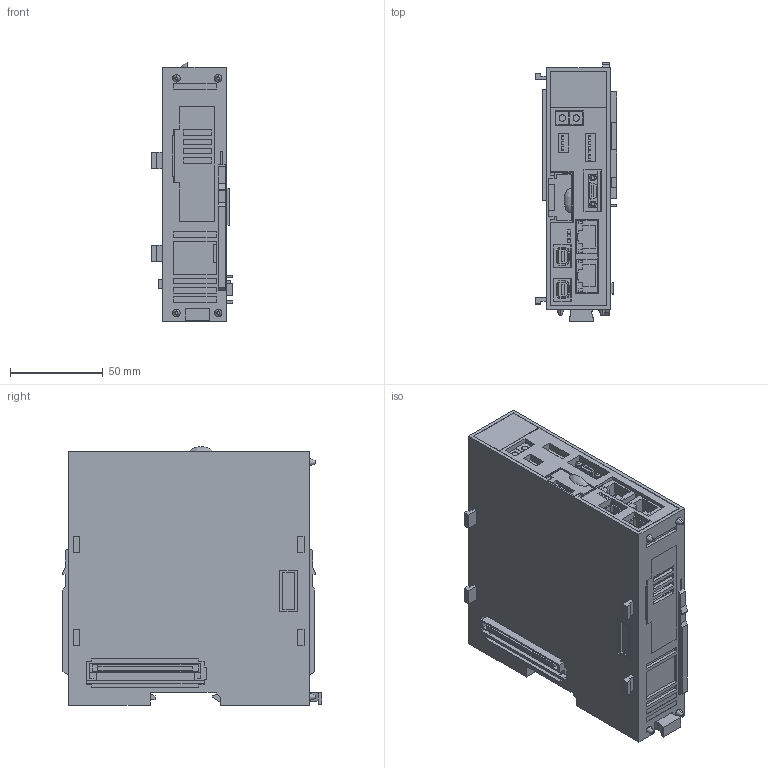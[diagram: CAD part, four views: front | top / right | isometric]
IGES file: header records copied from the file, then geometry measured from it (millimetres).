
Start section: SolidWorks IGES file using analytic representation for surfaces
Global section: file name: D:\YASKAWA\jepmc_cp3201_e.IGS; native system: SolidWorks 2006 by SolidWorks Corporation; preprocessor: SolidWorks 2006 by SolidWorks Corporation; author: yamanouchi; date: 120821.132701; units: millimetre
Bounding box: 44.2 x 140 x 139.4 mm (x, y, z)
Surface area: 83340.7 mm2 (no closed solid volume)
Topology: 0 solids, 0 shells, 893 faces, 5812 edges, 5812 vertices
Faces by surface type: bspline 842, revolution 51
